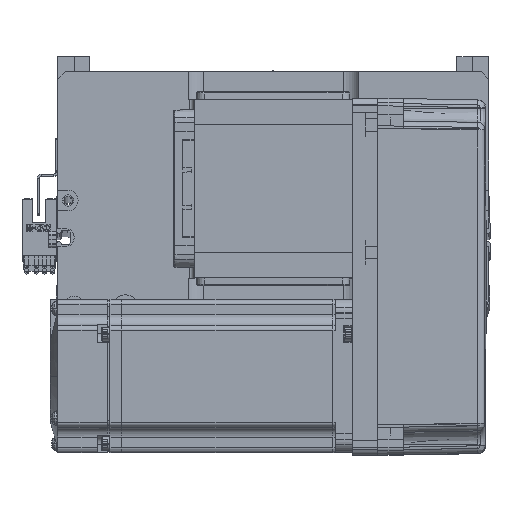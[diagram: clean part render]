
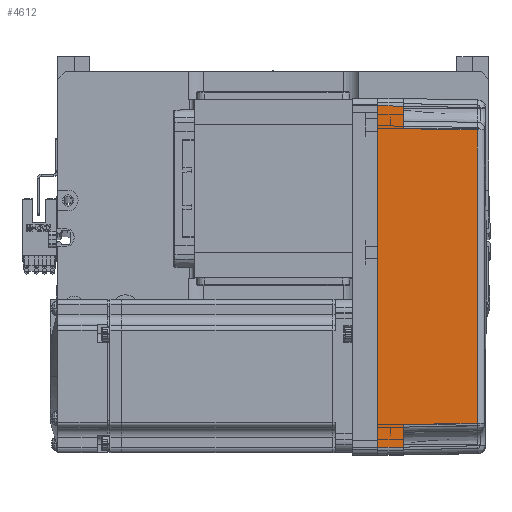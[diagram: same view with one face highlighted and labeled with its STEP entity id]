
A CAD part, top view. The second image highlights one B-rep face of the part: STEP entity #4612.
In plain terms, the highlighted planar face has unit normal (0.018, 0, 1) as drawn and (0, 1, 0.017) by its records, which use the part's own axes.
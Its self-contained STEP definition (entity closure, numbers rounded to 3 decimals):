
#59 = EDGE_CURVE ( 'NONE', #25337, #47752, #63554, .T. ) ;
#736 = ORIENTED_EDGE ( 'NONE', *, *, #16941, .F. ) ;
#837 = CARTESIAN_POINT ( 'NONE',  ( 70., 36., 0. ) ) ;
#2276 = EDGE_LOOP ( 'NONE', ( #25521, #24789, #23596, #25785, #12487, #61960, #736, #21200 ) ) ;
#4612 = ADVANCED_FACE ( 'NONE', ( #55378 ), #10818, .T. ) ;
#7884 = CARTESIAN_POINT ( 'NONE',  ( 0., 36., 0. ) ) ;
#8654 = EDGE_CURVE ( 'NONE', #46226, #25337, #52631, .T. ) ;
#9761 = CARTESIAN_POINT ( 'NONE',  ( -67., 36., 0. ) ) ;
#10057 = DIRECTION ( 'NONE',  ( -0.017, -0.017, 1. ) ) ;
#10776 = VECTOR ( 'NONE', #10057, 1000. ) ;
#10818 = PLANE ( 'NONE',  #20193 ) ;
#10975 = VECTOR ( 'NONE', #19595, 1000. ) ;
#12234 = VECTOR ( 'NONE', #22803, 1000. ) ;
#12487 = ORIENTED_EDGE ( 'NONE', *, *, #59, .T. ) ;
#15487 = EDGE_CURVE ( 'NONE', #21492, #46226, #47270, .T. ) ;
#16027 = CARTESIAN_POINT ( 'NONE',  ( 19.165, 35.316, 39.181 ) ) ;
#16546 = CARTESIAN_POINT ( 'NONE',  ( -66.826, 35.825, 10. ) ) ;
#16809 = LINE ( 'NONE', #31730, #58674 ) ;
#16941 = EDGE_CURVE ( 'NONE', #27423, #32846, #28080, .T. ) ;
#19595 = DIRECTION ( 'NONE',  ( 1., 0., 0. ) ) ;
#20193 = AXIS2_PLACEMENT_3D ( 'NONE', #837, #36215, #50764 ) ;
#20209 = EDGE_CURVE ( 'NONE', #61258, #27423, #20410, .T. ) ;
#20410 = LINE ( 'NONE', #7884, #45702 ) ;
#20743 = CARTESIAN_POINT ( 'NONE',  ( 58., 35.825, 10. ) ) ;
#21200 = ORIENTED_EDGE ( 'NONE', *, *, #20209, .F. ) ;
#21492 = VERTEX_POINT ( 'NONE', #58747 ) ;
#22803 = DIRECTION ( 'NONE',  ( 0.017, 0.017, -1. ) ) ;
#23596 = ORIENTED_EDGE ( 'NONE', *, *, #15487, .T. ) ;
#23714 = EDGE_CURVE ( 'NONE', #61258, #61623, #16809, .T. ) ;
#24082 = DIRECTION ( 'NONE',  ( 1., 0., 0. ) ) ;
#24472 = CARTESIAN_POINT ( 'NONE',  ( 70., 35.825, 10. ) ) ;
#24789 = ORIENTED_EDGE ( 'NONE', *, *, #36966, .T. ) ;
#25038 = CARTESIAN_POINT ( 'NONE',  ( 67.001, 36.001, -0.052 ) ) ;
#25337 = VERTEX_POINT ( 'NONE', #50403 ) ;
#25521 = ORIENTED_EDGE ( 'NONE', *, *, #23714, .T. ) ;
#25785 = ORIENTED_EDGE ( 'NONE', *, *, #8654, .T. ) ;
#27423 = VERTEX_POINT ( 'NONE', #33490 ) ;
#28080 = LINE ( 'NONE', #25038, #10776 ) ;
#28276 = LINE ( 'NONE', #24472, #10975 ) ;
#30639 = EDGE_CURVE ( 'NONE', #47752, #32846, #28276, .T. ) ;
#31730 = CARTESIAN_POINT ( 'NONE',  ( -67., 36., 0. ) ) ;
#32846 = VERTEX_POINT ( 'NONE', #49259 ) ;
#33490 = CARTESIAN_POINT ( 'NONE',  ( 67., 36., 0. ) ) ;
#36215 = DIRECTION ( 'NONE',  ( 0., 1., 0.017 ) ) ;
#36966 = EDGE_CURVE ( 'NONE', #61623, #21492, #42113, .T. ) ;
#40811 = CARTESIAN_POINT ( 'NONE',  ( -58., 35.825, 10. ) ) ;
#41359 = VECTOR ( 'NONE', #24082, 1000. ) ;
#42113 = LINE ( 'NONE', #44430, #41359 ) ;
#44430 = CARTESIAN_POINT ( 'NONE',  ( 70., 35.825, 10. ) ) ;
#45702 = VECTOR ( 'NONE', #63014, 1000. ) ;
#46226 = VERTEX_POINT ( 'NONE', #55913 ) ;
#46251 = CARTESIAN_POINT ( 'NONE',  ( -57.495, 35.32, 38.985 ) ) ;
#46878 = DIRECTION ( 'NONE',  ( 0.017, -0.017, 1. ) ) ;
#47135 = CARTESIAN_POINT ( 'NONE',  ( -19.165, 35.316, 39.181 ) ) ;
#47270 = LINE ( 'NONE', #40811, #61507 ) ;
#47752 = VERTEX_POINT ( 'NONE', #20743 ) ;
#49259 = CARTESIAN_POINT ( 'NONE',  ( 66.826, 35.825, 10. ) ) ;
#50403 = CARTESIAN_POINT ( 'NONE',  ( 57.495, 35.32, 38.985 ) ) ;
#50764 = DIRECTION ( 'NONE',  ( 0., -0.017, 1. ) ) ;
#52405 = CARTESIAN_POINT ( 'NONE',  ( 57.495, 35.32, 38.985 ) ) ;
#52631 = B_SPLINE_CURVE_WITH_KNOTS ( 'NONE', 3,
 ( #46251, #47135, #16027, #56407 ),
 .UNSPECIFIED., .F., .F.,
 ( 4, 4 ),
 ( 0., 1. ),
 .UNSPECIFIED. ) ;
#55378 = FACE_OUTER_BOUND ( 'NONE', #2276, .T. ) ;
#55913 = CARTESIAN_POINT ( 'NONE',  ( -57.495, 35.32, 38.985 ) ) ;
#55968 = DIRECTION ( 'NONE',  ( 0.017, -0.017, 1. ) ) ;
#56407 = CARTESIAN_POINT ( 'NONE',  ( 57.495, 35.32, 38.985 ) ) ;
#58674 = VECTOR ( 'NONE', #46878, 1000. ) ;
#58747 = CARTESIAN_POINT ( 'NONE',  ( -58., 35.825, 10. ) ) ;
#61258 = VERTEX_POINT ( 'NONE', #9761 ) ;
#61507 = VECTOR ( 'NONE', #55968, 1000. ) ;
#61623 = VERTEX_POINT ( 'NONE', #16546 ) ;
#61960 = ORIENTED_EDGE ( 'NONE', *, *, #30639, .T. ) ;
#63014 = DIRECTION ( 'NONE',  ( 1., 0., 0. ) ) ;
#63554 = LINE ( 'NONE', #52405, #12234 ) ;
